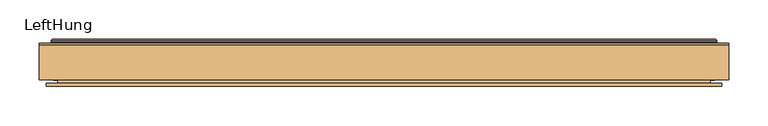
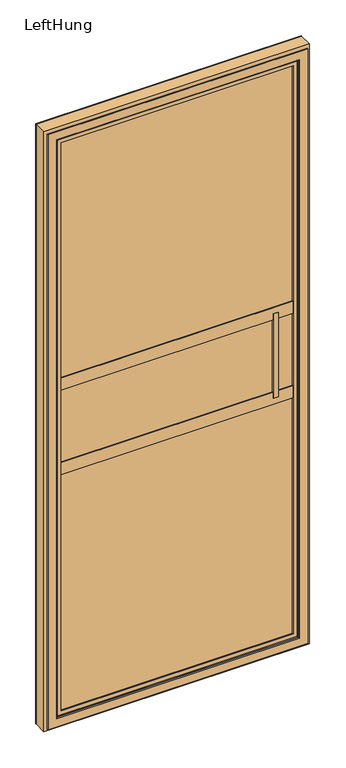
"""IFC4 building model written with IfcOpenShell, lengths in millimetres: door geometry, SMARTS_HeritageDoor : LeftHung."""

from ifc_helpers import new_model, si_unit, frame, origin, place, context, project, spatial, polyline, ellipse_curve, outline, extrude, source, transform, mapped, element, save
from ifc_brep_helpers import plane_surface, cylinder_surface, revolved_surface, advanced_brep


def lefthung_f528802b(model_context):
    return source(origin(), model_context, "Body", "SolidModel", [
        extrude(outline(polyline([(396.5, -66.0), (-396.5, -66.0), (-396.5, -62.0), (396.5, -62.0), (396.5, -66.0)])), frame((0.0, 0.0, 853.5), z_axis=(0.0, 0.0, 1.0), x_axis=(1.0, 0.0, 0.0)), (0.0, 0.0, 1.0), 2013.0),
        extrude(outline(polyline([(396.5, -46.0), (-396.5, -46.0), (-396.5, -42.0), (396.5, -42.0), (396.5, -46.0)])), frame((0.0, 0.0, 853.5), z_axis=(0.0, 0.0, 1.0), x_axis=(1.0, 0.0, 0.0)), (0.0, 0.0, 1.0), 2013.0),
        extrude(outline(polyline([(2866.5, -396.5), (853.5, -396.5), (853.5, 396.5), (2866.5, 396.5), (2866.5, -396.5)]), holes=[polyline([(2856.5, 386.5), (863.5, 386.5), (863.5, -386.5), (2856.5, -386.5), (2856.5, 386.5)])]), frame((0.0, -62.0, 0.0), z_axis=(0.0, 1.0, 0.0), x_axis=(0.0, 0.0, 1.0)), (0.0, 0.0, 1.0), 16.0),
        extrude(outline(polyline([(334.7619745, -38.3), (319.7619745, -38.3), (319.7619745, -27.0), (334.7619745, -27.0), (334.7619745, -38.3)])), frame((0.0, 0.0, 1712.0), z_axis=(0.0, 0.0, 1.0), x_axis=(1.0, 0.0, 0.0)), (0.0, 0.0, 1.0), 296.0),
        extrude(outline(polyline([(400.0, -27.0), (400.0, -57.9), (334.7619745, -57.9), (334.7619745, -27.0), (400.0, -27.0)])), frame((0.0, 0.0, 1712.0), z_axis=(0.0, 0.0, 1.0), x_axis=(1.0, 0.0, 0.0)), (0.0, 0.0, 1.0), 296.0),
        extrude(outline(polyline([(319.7619745, -69.6), (334.7619745, -69.6), (334.7619745, -57.9), (400.2, -57.9), (400.2, -67.9), (336.4619745, -67.9), (336.4619745, -73.8), (319.7619745, -73.8), (319.7619745, -69.6)])), frame((0.0, 0.0, 1712.0), z_axis=(0.0, 0.0, 1.0), x_axis=(1.0, 0.0, 0.0)), (0.0, 0.0, 1.0), 296.0),
        extrude(outline(polyline([(2870.0052956, -400.0052956), (849.9947044, -400.0052956), (849.9947044, 400.0052956), (2870.0052956, 400.0052956), (2870.0052956, -400.0052956)]), holes=[polyline([(2855.0, 385.0), (865.0, 385.0), (865.0, -385.0), (2855.0, -385.0), (2855.0, 385.0)])]), frame((0.0, -39.3, 0.0), z_axis=(0.0, 1.0, 0.0), x_axis=(0.0, 0.0, 1.0)), (0.0, 0.0, 1.0), 11.3),
        extrude(outline(polyline([(2885.6451958, 415.6451958), (2885.6451958, -415.6451958), (834.3548042, -415.6451958), (834.3548042, 415.6451958), (2885.6451958, 415.6451958)]), holes=[polyline([(850.0, 400.0), (850.0, -400.0), (2870.0, -400.0), (2870.0, 400.0), (850.0, 400.0)])]), frame((0.0, -69.6, 0.0), z_axis=(0.0, 1.0, 0.0), x_axis=(0.0, 0.0, 1.0)), (0.0, 0.0, 1.0), 41.6),
        advanced_brep(
        [(385.0, -74.8, 2855.0), (385.0, -69.6, 2855.0), (385.0, -69.6, 865.0), (385.0, -74.8, 865.0), (-385.0, -69.6, 865.0), (-385.0, -74.8, 865.0), (-385.0, -69.6, 2855.0), (-385.0, -74.8, 2855.0), (431.2, -76.0, 2901.2), (431.2, -80.0, 2901.2), (431.2, -80.0, 818.8), (431.2, -76.0, 818.8), (-431.2, -80.0, 818.8), (-431.2, -76.0, 818.8), (-431.2, -80.0, 2901.2), (-431.2, -76.0, 2901.2), (416.1467657, -76.0, 2886.1467657), (-416.1467657, -76.0, 2886.1467657), (-416.1467657, -76.0, 833.8532343), (416.1467657, -76.0, 833.8532343), (402.2, -80.0, 847.8), (-402.2, -80.0, 847.8), (-402.2, -80.0, 2872.2), (402.2, -80.0, 2872.2), (416.1467657, -69.6, 2886.1467657), (416.1467657, -69.6, 833.8532343), (-416.1467657, -69.6, 833.8532343), (-416.1467657, -69.6, 2886.1467657), (400.2, -78.0, 2870.2), (400.2, -76.8, 2870.2), (400.2, -76.8, 849.8), (400.2, -78.0, 849.8), (398.2, -74.8, 2868.2), (398.2, -74.8, 851.8), (-400.2, -76.8, 849.8), (-400.2, -78.0, 849.8), (-398.2, -74.8, 851.8), (-400.2, -76.8, 2870.2), (-400.2, -78.0, 2870.2), (-398.2, -74.8, 2868.2)],
        [
            (0, 1),
            (1, 2),
            (2, 3),
            (3, 0),
            (2, 4),
            (4, 5),
            (5, 3),
            (4, 6),
            (6, 7),
            (7, 5),
            (6, 1),
            (0, 7),
            (8, 9),
            (9, 10),
            (10, 11),
            (11, 8),
            (10, 12),
            (12, 13),
            (13, 11),
            (12, 14),
            (14, 15),
            (15, 13),
            (15, 8),
            (16, 17),
            (17, 18),
            (18, 19),
            (19, 16),
            (14, 9),
            (20, 21),
            (21, 22),
            (22, 23),
            (23, 20),
            (24, 16),
            (19, 25),
            (25, 24),
            (18, 26),
            (26, 25),
            (17, 27),
            (27, 26),
            (27, 24),
            (28, 29),
            (29, 30),
            (30, 31),
            (31, 28),
            (29, 32, ellipse_curve(frame((398.2, -76.8, 2868.2), z_axis=(-0.7071067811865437, 0.0, 0.7071067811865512), x_axis=(-0.7071067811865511, 0.0, -0.7071067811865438)), 2.8284271, 2.0)),
            (32, 33),
            (33, 30, ellipse_curve(frame((398.2, -76.8, 851.8), z_axis=(-0.7071067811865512, 0.0, -0.7071067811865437), x_axis=(0.7071067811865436, 0.0, -0.7071067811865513)), 2.8284271, 2.0)),
            (30, 34),
            (34, 35),
            (35, 31),
            (33, 36),
            (36, 34, ellipse_curve(frame((-398.2, -76.8, 851.8), z_axis=(-0.7071067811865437, 0.0, 0.7071067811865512), x_axis=(-0.7071067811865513, 0.0, -0.7071067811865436)), 2.8284271, 2.0)),
            (34, 37),
            (37, 38),
            (38, 35),
            (36, 39),
            (39, 37, ellipse_curve(frame((-398.2, -76.8, 2868.2), z_axis=(0.7071067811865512, 0.0, 0.7071067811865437), x_axis=(-0.7071067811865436, 0.0, 0.7071067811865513)), 2.8284271, 2.0)),
            (32, 39),
            (37, 29),
            (28, 38),
            (23, 28, ellipse_curve(frame((402.2, -78.0, 2872.2), z_axis=(0.7071067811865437, 0.0, -0.7071067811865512), x_axis=(0.7071067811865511, 0.0, 0.7071067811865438)), 2.8284271, 2.0)),
            (31, 20, ellipse_curve(frame((402.2, -78.0, 847.8), z_axis=(0.7071067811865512, 0.0, 0.7071067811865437), x_axis=(-0.7071067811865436, 0.0, 0.7071067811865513)), 2.8284271, 2.0)),
            (35, 21, ellipse_curve(frame((-402.2, -78.0, 847.8), z_axis=(0.7071067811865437, 0.0, -0.7071067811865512), x_axis=(0.7071067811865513, 0.0, 0.7071067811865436)), 2.8284271, 2.0)),
            (38, 22, ellipse_curve(frame((-402.2, -78.0, 2872.2), z_axis=(-0.7071067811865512, 0.0, -0.7071067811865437), x_axis=(0.7071067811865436, 0.0, -0.7071067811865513)), 2.8284271, 2.0)),
        ],
        [
            plane_surface(frame((385.0, -69.6, 2855.0), z_axis=(-1.0, 0.0, 0.0), x_axis=(0.0, 0.0, -1.0))),
            plane_surface(frame((385.0, -69.6, 865.0), z_axis=(0.0, 0.0, 1.0), x_axis=(-1.0, 0.0, 0.0))),
            plane_surface(frame((-385.0, -69.6, 865.0), z_axis=(1.0, 0.0, 0.0), x_axis=(0.0, 0.0, 1.0))),
            plane_surface(frame((-385.0, -69.6, 2855.0), z_axis=(0.0, 0.0, -1.0), x_axis=(1.0, 0.0, 0.0))),
            plane_surface(frame((431.2, -80.0, 2901.2), z_axis=(1.0, 0.0, 0.0), x_axis=(0.0, 0.0, -1.0))),
            plane_surface(frame((431.2, -80.0, 818.8), z_axis=(0.0, 0.0, -1.0), x_axis=(-1.0, 0.0, 0.0))),
            plane_surface(frame((-431.2, -80.0, 818.8), z_axis=(-1.0, 0.0, 0.0), x_axis=(0.0, 0.0, 1.0))),
            plane_surface(frame((-431.2, -76.0, 2901.2), z_axis=(0.0, 1.0, 0.0), x_axis=(1.0, 0.0, 0.0))),
            plane_surface(frame((-431.2, -80.0, 2901.2), z_axis=(0.0, 0.0, 1.0), x_axis=(1.0, 0.0, 0.0))),
            plane_surface(frame((-402.2, -80.0, 2872.2), z_axis=(0.0, -1.0, 0.0), x_axis=(1.0, 0.0, 0.0))),
            plane_surface(frame((416.1467657, -76.0, 2886.1467657), z_axis=(1.0, 0.0, 0.0), x_axis=(0.0, 0.0, -1.0))),
            plane_surface(frame((416.1467657, -76.0, 833.8532343), z_axis=(0.0, 0.0, -1.0), x_axis=(-1.0, 0.0, 0.0))),
            plane_surface(frame((-416.1467657, -76.0, 833.8532343), z_axis=(-1.0, 0.0, 0.0), x_axis=(0.0, 0.0, 1.0))),
            plane_surface(frame((-416.1467657, -69.6, 2886.1467657), z_axis=(0.0, 1.0, 0.0), x_axis=(1.0, 0.0, 0.0))),
            plane_surface(frame((-416.1467657, -76.0, 2886.1467657), z_axis=(0.0, 0.0, 1.0), x_axis=(1.0, 0.0, 0.0))),
            plane_surface(frame((400.2, -76.8, 2870.2), z_axis=(-1.0, 0.0, 0.0), x_axis=(0.0, 0.0, -1.0))),
            revolved_surface(polyline([(400.2, -76.8, 849.8), (400.2, -76.8, 2870.2)]), (398.2, -76.8, 2880.0), (0.0, 0.0, -1.0)),
            plane_surface(frame((400.2, -76.8, 849.8), z_axis=(0.0, 0.0, 1.0), x_axis=(-1.0, 0.0, 0.0))),
            revolved_surface(polyline([(-400.20000000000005, -76.8, 849.8), (400.2, -76.8, 849.8)]), (410.0, -76.8, 851.8), (-1.0, 0.0, 0.0)),
            plane_surface(frame((-400.2, -76.8, 849.8), z_axis=(1.0, 0.0, 0.0), x_axis=(0.0, 0.0, 1.0))),
            revolved_surface(polyline([(-400.2, -76.8, 2870.2), (-400.2, -76.8, 849.8)]), (-398.2, -76.8, 840.0), (0.0, 0.0, 1.0)),
            plane_surface(frame((-385.0, -74.8, 2855.0), z_axis=(0.0, -1.0, 0.0), x_axis=(1.0, 0.0, 0.0))),
            plane_surface(frame((-400.2, -76.8, 2870.2), z_axis=(0.0, 0.0, -1.0), x_axis=(1.0, 0.0, 0.0))),
            revolved_surface(polyline([(400.20000000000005, -76.8, 2870.2), (-400.2, -76.8, 2870.2)]), (-410.0, -76.8, 2868.2), (1.0, 0.0, 0.0)),
            cylinder_surface(frame((402.2, -78.0, 2880.0), z_axis=(0.0, 0.0, 1.0), x_axis=(1.0, 0.0, 0.0)), 2.0),
            cylinder_surface(frame((410.0, -78.0, 847.8), z_axis=(1.0, 0.0, 0.0), x_axis=(0.0, 0.0, -1.0)), 2.0),
            cylinder_surface(frame((-402.2, -78.0, 840.0), z_axis=(0.0, 0.0, -1.0), x_axis=(-1.0, 0.0, 0.0)), 2.0),
            cylinder_surface(frame((-410.0, -78.0, 2872.2), z_axis=(-1.0, 0.0, 0.0), x_axis=(0.0, 0.0, 1.0)), 2.0),
        ],
        [
            (0, [[1, 2, 3, 4]]),
            (1, [[-3, 5, 6, 7]]),
            (2, [[-6, 8, 9, 10]]),
            (3, [[-9, 11, -1, 12]]),
            (4, [[13, 14, 15, 16]]),
            (5, [[-15, 17, 18, 19]]),
            (6, [[-18, 20, 21, 22]]),
            (7, [[-19, -22, 23, -16], [24, 25, 26, 27]]),
            (8, [[-21, 28, -13, -23]]),
            (9, [[-28, -20, -17, -14], [29, 30, 31, 32]]),
            (10, [[33, -27, 34, 35]]),
            (11, [[-34, -26, 36, 37]]),
            (12, [[-36, -25, 38, 39]]),
            (13, [[-37, -39, 40, -35], [-11, -8, -5, -2]]),
            (14, [[-38, -24, -33, -40]]),
            (15, [[41, 42, 43, 44]]),
            (16, [[45, 46, 47, -42]]),
            (17, [[-43, 48, 49, 50]]),
            (18, [[-47, 51, 52, -48]]),
            (19, [[-49, 53, 54, 55]]),
            (20, [[-52, 56, 57, -53]]),
            (21, [[58, -56, -51, -46], [-7, -10, -12, -4]]),
            (22, [[-54, 59, -41, 60]]),
            (23, [[-57, -58, -45, -59]]),
            (24, [[61, -44, 62, -32]]),
            (25, [[-62, -50, 63, -29]]),
            (26, [[-63, -55, 64, -30]]),
            (27, [[-64, -60, -61, -31]]),
        ],
    ),
        extrude(outline(polyline([(-385.0, -38.4690746), (-385.0, -27.1690746), (385.0, -27.1690746), (385.0, -38.4690746), (-385.0, -38.4690746)])), frame((0.0, 0.0, 1986.75), z_axis=(0.0, 0.0, 1.0), x_axis=(1.0, 0.0, 0.0)), (0.0, 0.0, 1.0), 16.15),
        extrude(outline(polyline([(-385.0, -38.4690746), (-385.0, -27.1690746), (385.0, -27.1690746), (385.0, -38.4690746), (-385.0, -38.4690746)])), frame((0.0, 0.0, 2014.25), z_axis=(0.0, 0.0, 1.0), x_axis=(1.0, 0.0, 0.0)), (0.0, 0.0, 1.0), 15.0052956),
        extrude(outline(polyline([(-385.0, -53.5843537), (-385.0, -27.1690746), (385.0, -27.1690746), (385.0, -53.5843537), (-385.0, -53.5843537)])), frame((0.0, 0.0, 2001.75), z_axis=(0.0, 0.0, 1.0), x_axis=(1.0, 0.0, 0.0)), (0.0, 0.0, 1.0), 12.5),
        extrude(outline(polyline([(-69.9690746, 2029.2552956), (-69.9690746, 2014.25), (-53.5843537, 2014.25), (-53.5843537, 2001.75), (-69.9690746, 2001.75), (-69.9690746, 1986.75), (-73.9687074, 1986.75), (-73.9687074, 2029.2552956), (-69.9690746, 2029.2552956)])), frame((-385.0, 0.0, 0.0), z_axis=(1.0, 0.0, 0.0), x_axis=(0.0, 1.0, 0.0)), (0.0, 0.0, 1.0), 770.0),
        extrude(outline(polyline([(-385.0, -38.4690746), (-385.0, -27.1690746), (385.0, -27.1690746), (385.0, -38.4690746), (-385.0, -38.4690746)])), frame((0.0, 0.0, 1690.75), z_axis=(0.0, 0.0, 1.0), x_axis=(1.0, 0.0, 0.0)), (0.0, 0.0, 1.0), 16.15),
        extrude(outline(polyline([(-385.0, -38.4690746), (-385.0, -27.1690746), (385.0, -27.1690746), (385.0, -38.4690746), (-385.0, -38.4690746)])), frame((0.0, 0.0, 1718.25), z_axis=(0.0, 0.0, 1.0), x_axis=(1.0, 0.0, 0.0)), (0.0, 0.0, 1.0), 15.0052956),
        extrude(outline(polyline([(-385.0, -53.5843537), (-385.0, -27.1690746), (385.0, -27.1690746), (385.0, -53.5843537), (-385.0, -53.5843537)])), frame((0.0, 0.0, 1705.75), z_axis=(0.0, 0.0, 1.0), x_axis=(1.0, 0.0, 0.0)), (0.0, 0.0, 1.0), 12.5),
        extrude(outline(polyline([(-69.9690746, 1733.2552956), (-69.9690746, 1718.25), (-53.5843537, 1718.25), (-53.5843537, 1705.75), (-69.9690746, 1705.75), (-69.9690746, 1690.75), (-73.9687074, 1690.75), (-73.9687074, 1733.2552956), (-69.9690746, 1733.2552956)])), frame((-385.0, 0.0, 0.0), z_axis=(1.0, 0.0, 0.0), x_axis=(0.0, 1.0, 0.0)), (0.0, 0.0, 1.0), 770.0),
        advanced_brep(
        [(407.0, -20.0, 2877.0), (407.0, -20.0, 843.0), (407.0, -24.0, 843.0), (407.0, -24.0, 2877.0), (422.2999818, -24.0, 2892.2999818), (422.2999818, -24.0, 827.7000182), (422.2999818, -27.0000138, 827.7000182), (422.2999818, -27.0000138, 2892.2999818), (424.4999818, -23.5000138, 2894.4999818), (424.4999818, -23.5000138, 825.5000182), (424.4999818, -22.0, 825.5000182), (424.4999818, -22.0, 2894.4999818), (-407.0, -20.0, 843.0), (-407.0, -24.0, 843.0), (-422.2999818, -24.0, 827.7000182), (-422.2999818, -27.0000138, 827.7000182), (-424.4999818, -23.5000138, 825.5000182), (-424.4999818, -22.0, 825.5000182), (-407.0, -20.0, 2877.0), (-407.0, -24.0, 2877.0), (-422.2999818, -24.0, 2892.2999818), (-422.2999818, -27.0000138, 2892.2999818), (-424.4999818, -23.5000138, 2894.4999818), (-424.4999818, -22.0, 2894.4999818), (425.9999818, -25.0000138, 2895.9999818), (425.9999818, -25.0000138, 824.0000182), (440.0, -27.0000138, 2910.0), (440.0, -27.0000138, 810.0), (440.0, -25.0000138, 810.0), (440.0, -25.0000138, 2910.0), (-425.9999818, -25.0000138, 824.0000182), (-440.0, -27.0000138, 810.0), (-440.0, -25.0000138, 810.0), (-425.9999818, -25.0000138, 2895.9999818), (-440.0, -27.0000138, 2910.0), (-440.0, -25.0000138, 2910.0), (422.4999818, -20.0, 2892.4999818), (422.4999818, -20.0, 827.5000182), (-422.4999818, -20.0, 827.5000182), (-422.4999818, -20.0, 2892.4999818)],
        [
            (0, 1),
            (1, 2),
            (2, 3),
            (3, 0),
            (4, 5),
            (5, 6),
            (6, 7),
            (7, 4),
            (8, 9),
            (9, 10),
            (10, 11),
            (11, 8),
            (1, 12),
            (12, 13),
            (13, 2),
            (5, 14),
            (14, 15),
            (15, 6),
            (9, 16),
            (16, 17),
            (17, 10),
            (12, 18),
            (18, 19),
            (19, 13),
            (14, 20),
            (20, 21),
            (21, 15),
            (16, 22),
            (22, 23),
            (23, 17),
            (18, 0),
            (3, 19),
            (4, 20),
            (7, 21),
            (22, 8),
            (11, 23),
            (24, 25),
            (25, 9, ellipse_curve(frame((425.9999818, -23.5000138, 824.0000182), z_axis=(-0.7071067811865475, 0.0, -0.7071067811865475), x_axis=(0.7071067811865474, 0.0, -0.7071067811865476)), 2.1213203, 1.5)),
            (8, 24, ellipse_curve(frame((425.9999818, -23.5000138, 2895.9999818), z_axis=(-0.7071067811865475, 0.0, 0.7071067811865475), x_axis=(-0.7071067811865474, 0.0, -0.7071067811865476)), 2.1213203, 1.5)),
            (26, 27),
            (27, 28),
            (28, 29),
            (29, 26),
            (25, 30),
            (30, 16, ellipse_curve(frame((-425.9999818, -23.5000138, 824.0000182), z_axis=(-0.7071067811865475, 0.0, 0.7071067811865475), x_axis=(-0.7071067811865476, 0.0, -0.7071067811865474)), 2.1213203, 1.5)),
            (27, 31),
            (31, 32),
            (32, 28),
            (30, 33),
            (33, 22, ellipse_curve(frame((-425.9999818, -23.5000138, 2895.9999818), z_axis=(0.7071067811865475, 0.0, 0.7071067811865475), x_axis=(-0.7071067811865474, 0.0, 0.7071067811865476)), 2.1213203, 1.5)),
            (31, 34),
            (34, 35),
            (35, 32),
            (33, 24),
            (35, 29),
            (36, 37),
            (37, 38),
            (38, 39),
            (39, 36),
            (34, 26),
            (10, 37, ellipse_curve(frame((422.4999818, -22.0, 827.5000182), z_axis=(0.7071067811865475, 0.0, 0.7071067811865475), x_axis=(-0.7071067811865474, 0.0, 0.7071067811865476)), 2.8284271, 2.0)),
            (36, 11, ellipse_curve(frame((422.4999818, -22.0, 2892.4999818), z_axis=(0.7071067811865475, 0.0, -0.7071067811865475), x_axis=(0.7071067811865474, 0.0, 0.7071067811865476)), 2.8284271, 2.0)),
            (17, 38, ellipse_curve(frame((-422.4999818, -22.0, 827.5000182), z_axis=(0.7071067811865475, 0.0, -0.7071067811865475), x_axis=(0.7071067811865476, 0.0, 0.7071067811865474)), 2.8284271, 2.0)),
            (23, 39, ellipse_curve(frame((-422.4999818, -22.0, 2892.4999818), z_axis=(-0.7071067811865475, 0.0, -0.7071067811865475), x_axis=(0.7071067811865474, 0.0, -0.7071067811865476)), 2.8284271, 2.0)),
        ],
        [
            plane_surface(frame((407.0, -24.0, 2877.0), z_axis=(-1.0, 0.0, 0.0), x_axis=(0.0, 0.0, -1.0))),
            plane_surface(frame((422.2999818, -27.0000138, 2892.2999818), z_axis=(-1.0, 0.0, 0.0), x_axis=(0.0, 0.0, -1.0))),
            plane_surface(frame((424.4999818, -22.0, 2894.4999818), z_axis=(1.0, 0.0, 0.0), x_axis=(0.0, 0.0, -1.0))),
            plane_surface(frame((407.0, -24.0, 843.0), z_axis=(0.0, 0.0, 1.0), x_axis=(-1.0, 0.0, 0.0))),
            plane_surface(frame((422.2999818, -27.0000138, 827.7000182), z_axis=(0.0, 0.0, 1.0), x_axis=(-1.0, 0.0, 0.0))),
            plane_surface(frame((424.4999818, -22.0, 825.5000182), z_axis=(0.0, 0.0, -1.0), x_axis=(-1.0, 0.0, 0.0))),
            plane_surface(frame((-407.0, -24.0, 843.0), z_axis=(1.0, 0.0, 0.0), x_axis=(0.0, 0.0, 1.0))),
            plane_surface(frame((-422.2999818, -27.0000138, 827.7000182), z_axis=(1.0, 0.0, 0.0), x_axis=(0.0, 0.0, 1.0))),
            plane_surface(frame((-424.4999818, -22.0, 825.5000182), z_axis=(-1.0, 0.0, 0.0), x_axis=(0.0, 0.0, 1.0))),
            plane_surface(frame((-407.0, -24.0, 2877.0), z_axis=(0.0, 0.0, -1.0), x_axis=(1.0, 0.0, 0.0))),
            plane_surface(frame((-422.2999818, -24.0, 2892.2999818), z_axis=(0.0, -1.0, 0.0), x_axis=(1.0, 0.0, 0.0))),
            plane_surface(frame((-422.2999818, -27.0000138, 2892.2999818), z_axis=(0.0, 0.0, -1.0), x_axis=(1.0, 0.0, 0.0))),
            plane_surface(frame((-424.4999818, -22.0, 2894.4999818), z_axis=(0.0, 0.0, 1.0), x_axis=(1.0, 0.0, 0.0))),
            revolved_surface(polyline([(424.4999818, -23.5000138, 822.5000182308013), (424.4999818, -23.5000138, 2897.4999817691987)]), (425.9999818, -23.5000138, 2910.0), (0.0, 0.0, -1.0)),
            plane_surface(frame((440.0, -25.0000138, 2910.0), z_axis=(1.0, 0.0, 0.0), x_axis=(0.0, 0.0, -1.0))),
            revolved_surface(polyline([(-427.4999817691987, -23.5000138, 825.5000182), (427.49998176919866, -23.5000138, 825.5000182)]), (440.0, -23.5000138, 824.0000182), (-1.0, 0.0, 0.0)),
            plane_surface(frame((440.0, -25.0000138, 810.0), z_axis=(0.0, 0.0, -1.0), x_axis=(-1.0, 0.0, 0.0))),
            revolved_surface(polyline([(-424.4999818, -23.5000138, 2897.4999817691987), (-424.4999818, -23.5000138, 822.5000182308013)]), (-425.9999818, -23.5000138, 810.0), (0.0, 0.0, 1.0)),
            plane_surface(frame((-440.0, -25.0000138, 810.0), z_axis=(-1.0, 0.0, 0.0), x_axis=(0.0, 0.0, 1.0))),
            revolved_surface(polyline([(427.4999817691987, -23.5000138, 2894.4999818), (-427.49998176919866, -23.5000138, 2894.4999818)]), (-440.0, -23.5000138, 2895.9999818), (1.0, 0.0, 0.0)),
            plane_surface(frame((-425.9999818, -25.0000138, 2895.9999818), z_axis=(0.0, 1.0, 0.0), x_axis=(1.0, 0.0, 0.0))),
            plane_surface(frame((-407.0, -20.0, 2877.0), z_axis=(0.0, 1.0, 0.0), x_axis=(1.0, 0.0, 0.0))),
            plane_surface(frame((-440.0, -25.0000138, 2910.0), z_axis=(0.0, 0.0, 1.0), x_axis=(1.0, 0.0, 0.0))),
            plane_surface(frame((-440.0, -27.0000138, 2910.0), z_axis=(0.0, -1.0, 0.0), x_axis=(1.0, 0.0, 0.0))),
            cylinder_surface(frame((422.4999818, -22.0, 2910.0), z_axis=(0.0, 0.0, 1.0), x_axis=(-1.0, 0.0, 0.0)), 2.0),
            cylinder_surface(frame((440.0, -22.0, 827.5000182), z_axis=(1.0, 0.0, 0.0), x_axis=(0.0, 0.0, 1.0)), 2.0),
            cylinder_surface(frame((-422.4999818, -22.0, 810.0), z_axis=(0.0, 0.0, -1.0), x_axis=(1.0, 0.0, 0.0)), 2.0),
            cylinder_surface(frame((-440.0, -22.0, 2892.4999818), z_axis=(-1.0, 0.0, 0.0), x_axis=(0.0, 0.0, -1.0)), 2.0),
        ],
        [
            (0, [[1, 2, 3, 4]]),
            (1, [[5, 6, 7, 8]]),
            (2, [[9, 10, 11, 12]]),
            (3, [[13, 14, 15, -2]]),
            (4, [[16, 17, 18, -6]]),
            (5, [[19, 20, 21, -10]]),
            (6, [[22, 23, 24, -14]]),
            (7, [[25, 26, 27, -17]]),
            (8, [[28, 29, 30, -20]]),
            (9, [[31, -4, 32, -23]]),
            (10, [[-5, 33, -25, -16], [-3, -15, -24, -32]]),
            (11, [[-33, -8, 34, -26]]),
            (12, [[35, -12, 36, -29]]),
            (13, [[37, 38, -9, 39]]),
            (14, [[40, 41, 42, 43]]),
            (15, [[44, 45, -19, -38]]),
            (16, [[46, 47, 48, -41]]),
            (17, [[49, 50, -28, -45]]),
            (18, [[51, 52, 53, -47]]),
            (19, [[54, -39, -35, -50]]),
            (20, [[-42, -48, -53, 55], [-37, -54, -49, -44]]),
            (21, [[56, 57, 58, 59], [-1, -31, -22, -13]]),
            (22, [[60, -43, -55, -52]]),
            (23, [[-40, -60, -51, -46], [-7, -18, -27, -34]]),
            (24, [[-11, 61, -56, 62]]),
            (25, [[-21, 63, -57, -61]]),
            (26, [[-30, 64, -58, -63]]),
            (27, [[-36, -62, -59, -64]]),
        ],
    ),
        extrude(outline(polyline([(810.0, 440.0), (2910.0, 440.0), (2910.0, -440.0), (810.0, -440.0), (810.0, 440.0)]), holes=[polyline([(2892.2999818, 422.2999818), (827.7000182, 422.2999818), (827.7000182, -422.2999818), (2892.2999818, -422.2999818), (2892.2999818, 422.2999818)])]), frame((0.0, -72.0000099, 0.0), z_axis=(0.0, 1.0, 0.0), x_axis=(0.0, 0.0, 1.0)), (0.0, 0.0, 1.0), 44.9999962),
    ])


if __name__ == "__main__":
    model = new_model("IFC4")
    model_context = context("Model", 3, world=origin())
    ifc_project = project(units=[si_unit("LENGTHUNIT", "METRE", prefix="MILLI")], contexts=[model_context])
    site = spatial("IfcSite", under=ifc_project)
    building = spatial("IfcBuilding", under=site)
    placement = place(None, origin())
    lefthung_shape = lefthung_f528802b(model_context)
    element("IfcDoor", 1, ObjectType="SMARTS_HeritageDoor : LeftHung", at=placement, inside=building, context=model_context, shape_type="MappedRepresentation", body=[
        mapped(lefthung_shape, transform((0.0, 0.0, 0.0), x_axis=(1.0, 0.0, 0.0), y_axis=(0.0, 1.0, 0.0), z_axis=(0.0, 0.0, 1.0))),
    ])
    save(model, "model.ifc")
